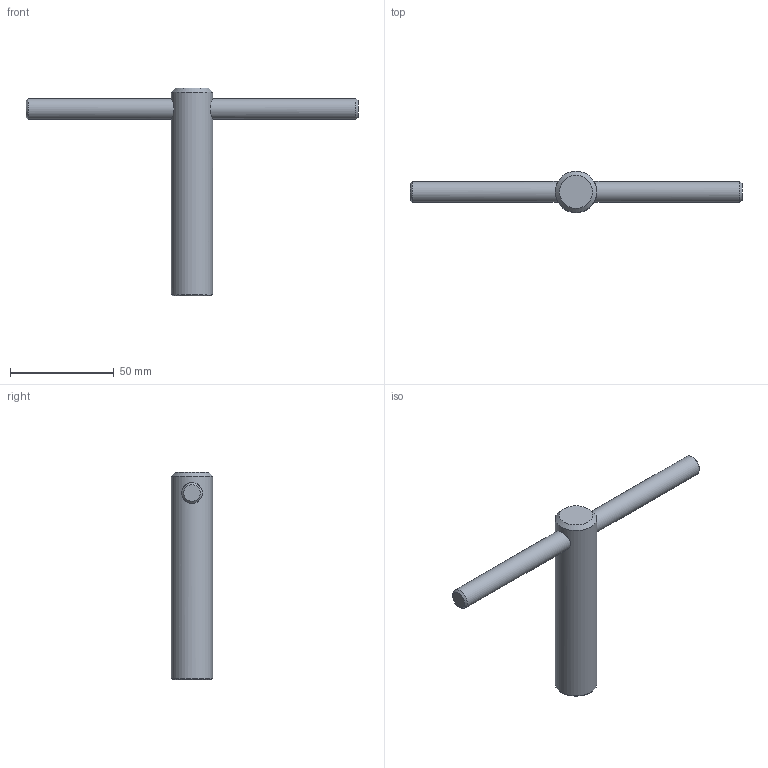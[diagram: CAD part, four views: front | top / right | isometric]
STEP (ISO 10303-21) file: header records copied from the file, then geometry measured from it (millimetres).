
FILE_DESCRIPTION(/* description */ (''),/* implementation_level */ '2;1');
FILE_NAME(/* name */ '\\DC01\Daten\CAD\Standard\Daten\3D-Datenbank\SWS\4 - 3D-CAD-Daten SWS 050-160\SWS080\step-Daten\ZG-VKS080-SW10.stp',/* time_stamp */ '2022-08-16T11:23:54+02:00',/* author */ ('mbecker'),/* organization */ ('GRIP GmbH'),/* preprocessor_version */ 'ST-DEVELOPER v17',/* originating_system */ 'Autodesk Inventor 2018',/* authorisation */ '');
FILE_SCHEMA (('AUTOMOTIVE_DESIGN { 1 0 10303 214 3 1 1 }'));
Length unit declared in the file: millimetre
Products named in the file (1): ZG-52192-SSW10
Bounding box: 160 x 20 x 100 mm (x, y, z)
Volume: 40489 mm3; surface area: 11901.7 mm2
Topology: 1 solids, 1 shells, 16 faces, 32 edges, 20 vertices
Faces by surface type: plane 9, cone 4, cylinder 3
Full cylindrical faces by diameter (mm): 10 x2, 20 x1
Entity records: 511 total; most frequent: CARTESIAN_POINT 137, DIRECTION 70, ORIENTED_EDGE 64, EDGE_CURVE 32, AXIS2_PLACEMENT_3D 25, LINE 20, VECTOR 20, VERTEX_POINT 20
